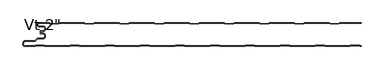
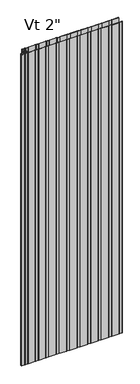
"""IFC4 building model written with IfcOpenShell, lengths in millimetres: plate geometry."""

from ifc_helpers import new_model, si_unit, point, frame, frame_2d, origin, origin_with_axes, place, context, project, spatial, polyline, circle_curve, trimmed, segment, composite_curve, outline, extrude, source, transform, mapped, element, save
from ifc_brep_helpers import plane_surface, cylinder_surface, revolved_surface, advanced_brep


def plate_9e625256(model_context):
    return source(origin(), model_context, "Body", "SolidModel", [
        advanced_brep(
        [(-346.968691, -17.0015202, 2400.0), (-347.9686883, -18.0015234, 2400.0), (-346.968691, -19.0015147, 2400.0), (-342.9684874, -19.0015147, 2400.0), (-342.9684874, -18.0015202, 2400.0), (-340.2762776, -18.0015202, 2400.0), (-336.9762819, -14.7015245, 2400.0), (-336.9762819, -10.3015333, 2400.0), (-340.2762774, -7.0015378, 2400.0), (-350.6962563, -7.0015378, 2400.0), (-352.4662505, -5.2315436, 2400.0), (-352.4662505, -0.9999959, 2400.0), (-327.9659738, -0.9999959, 2400.0), (-326.5803312, -2.200235, 2400.0), (-307.2051649, -2.200235, 2400.0), (-305.819532, -1.0000043, 2400.0), (-251.7661166, -1.0000043, 2400.0), (-250.3804836, -2.200235, 2400.0), (-231.0053173, -2.200235, 2400.0), (-229.6196844, -1.0000043, 2400.0), (-175.566269, -1.0000043, 2400.0), (-174.180636, -2.200235, 2400.0), (-154.8054697, -2.200235, 2400.0), (-153.4198368, -1.0000043, 2400.0), (-99.3664214, -1.0000043, 2400.0), (-97.9807884, -2.200235, 2400.0), (-78.6056221, -2.200235, 2400.0), (-77.2199892, -1.0000043, 2400.0), (-23.1665738, -1.0000043, 2400.0), (-21.7809408, -2.200235, 2400.0), (-2.4057745, -2.200235, 2400.0), (-1.0201416, -1.0000043, 2400.0), (53.0332738, -1.0000043, 2400.0), (54.4189068, -2.200235, 2400.0), (73.7940731, -2.200235, 2400.0), (75.179706, -1.0000043, 2400.0), (129.2331214, -1.0000043, 2400.0), (130.6187544, -2.200235, 2400.0), (149.9939207, -2.200235, 2400.0), (151.3795536, -1.0000043, 2400.0), (205.432969, -1.0000043, 2400.0), (206.818602, -2.200235, 2400.0), (226.1937683, -2.200235, 2400.0), (227.5794012, -1.0000043, 2400.0), (281.6328166, -1.0000043, 2400.0), (283.0184496, -2.200235, 2400.0), (302.3936159, -2.200235, 2400.0), (303.7792488, -1.0000043, 2400.0), (350.4999998, -1.0000043, 2400.0), (350.4999998, -4.3e-06, 2400.0), (303.9284, -4.3e-06, 2400.0), (303.0117831, -0.3417928, 2400.0), (302.0207355, -1.200235, 2400.0), (283.39133, -1.200235, 2400.0), (282.4002824, -0.3417928, 2400.0), (281.4836655, -4.3e-06, 2400.0), (227.7285524, -4.3e-06, 2400.0), (226.8119355, -0.3417928, 2400.0), (225.8208879, -1.200235, 2400.0), (207.1914824, -1.200235, 2400.0), (206.2004348, -0.3417928, 2400.0), (205.2838179, -4.3e-06, 2400.0), (151.5287048, -4.3e-06, 2400.0), (150.6120879, -0.3417928, 2400.0), (149.6210403, -1.200235, 2400.0), (130.9916348, -1.200235, 2400.0), (130.0005872, -0.3417928, 2400.0), (129.0839703, -4.3e-06, 2400.0), (75.3288572, -4.3e-06, 2400.0), (74.4122403, -0.3417928, 2400.0), (73.4211927, -1.200235, 2400.0), (54.7917872, -1.200235, 2400.0), (53.8007396, -0.3417928, 2400.0), (52.8841227, -4.3e-06, 2400.0), (-0.8709904, -4.3e-06, 2400.0), (-1.7876073, -0.3417928, 2400.0), (-2.7786549, -1.200235, 2400.0), (-21.4080604, -1.200235, 2400.0), (-22.399108, -0.3417928, 2400.0), (-23.3157249, -4.3e-06, 2400.0), (-77.070838, -4.3e-06, 2400.0), (-77.9874549, -0.3417928, 2400.0), (-78.9785025, -1.200235, 2400.0), (-97.607908, -1.200235, 2400.0), (-98.5989556, -0.3417928, 2400.0), (-99.5155725, -4.3e-06, 2400.0), (-153.2706856, -4.3e-06, 2400.0), (-154.1873025, -0.3417928, 2400.0), (-155.1783501, -1.200235, 2400.0), (-173.8077556, -1.200235, 2400.0), (-174.7988032, -0.3417928, 2400.0), (-175.7154201, -4.3e-06, 2400.0), (-229.4705332, -4.3e-06, 2400.0), (-230.3871501, -0.3417928, 2400.0), (-231.3781977, -1.200235, 2400.0), (-250.0076032, -1.200235, 2400.0), (-250.9986508, -0.3417928, 2400.0), (-251.9152677, -4.3e-06, 2400.0), (-305.6703808, -4.3e-06, 2400.0), (-306.5869977, -0.3417928, 2400.0), (-307.5780453, -1.200235, 2400.0), (-326.2074508, -1.200235, 2400.0), (-327.1984984, -0.3417928, 2400.0), (-328.1152067, -4.3e-06, 2400.0), (-352.0662543, 4.1e-06, 2400.0), (-353.4662505, -1.3999921, 2400.0), (-353.4662505, -5.2315436, 2400.0), (-350.6962563, -8.0015378, 2400.0), (-340.2762774, -8.0015378, 2400.0), (-337.9762819, -10.3015333, 2400.0), (-337.9762819, -14.7015245, 2400.0), (-340.2762776, -17.0015202, 2400.0), (-346.968691, -17.0015202, 0.0), (-340.2762776, -17.0015202, 0.0), (-337.9762819, -14.7015245, 0.0), (-337.9762819, -10.3015333, 0.0), (-340.2762774, -8.0015378, 0.0), (-350.6962563, -8.0015378, 0.0), (-353.4662505, -5.2315436, 0.0), (-353.4662505, -1.3999921, 0.0), (-352.0662543, 4.1e-06, 0.0), (-328.1151153, 4.1e-06, 0.0), (-327.1984984, -0.3417928, 0.0), (-326.2074508, -1.200235, 0.0), (-307.5780453, -1.200235, 0.0), (-306.5869977, -0.3417928, 0.0), (-305.6703808, -4.3e-06, 0.0), (-251.9152677, -4.3e-06, 0.0), (-250.9986508, -0.3417928, 0.0), (-250.0076032, -1.200235, 0.0), (-231.3781977, -1.200235, 0.0), (-230.3871501, -0.3417928, 0.0), (-229.4705332, -4.3e-06, 0.0), (-175.7154201, -4.3e-06, 0.0), (-174.7988032, -0.3417928, 0.0), (-173.8077556, -1.200235, 0.0), (-155.1783501, -1.200235, 0.0), (-154.1873025, -0.3417928, 0.0), (-153.2706856, -4.3e-06, 0.0), (-99.5155725, -4.3e-06, 0.0), (-98.5989556, -0.3417928, 0.0), (-97.607908, -1.200235, 0.0), (-78.9785025, -1.200235, 0.0), (-77.9874549, -0.3417928, 0.0), (-77.070838, -4.3e-06, 0.0), (-23.3157249, -4.3e-06, 0.0), (-22.399108, -0.3417928, 0.0), (-21.4080604, -1.200235, 0.0), (-2.7786549, -1.200235, 0.0), (-1.7876073, -0.3417928, 0.0), (-0.8709904, -4.3e-06, 0.0), (52.8841227, -4.3e-06, 0.0), (53.8007396, -0.3417928, 0.0), (54.7917872, -1.200235, 0.0), (73.4211927, -1.200235, 0.0), (74.4122403, -0.3417928, 0.0), (75.3288572, -4.3e-06, 0.0), (129.0839703, -4.3e-06, 0.0), (130.0005872, -0.3417928, 0.0), (130.9916348, -1.200235, 0.0), (149.6210403, -1.200235, 0.0), (150.6120879, -0.3417928, 0.0), (151.5287048, -4.3e-06, 0.0), (205.2838179, -4.3e-06, 0.0), (206.2004348, -0.3417928, 0.0), (207.1914824, -1.200235, 0.0), (225.8208879, -1.200235, 0.0), (226.8119355, -0.3417928, 0.0), (227.7285524, -4.3e-06, 0.0), (281.4836655, -4.3e-06, 0.0), (282.4002824, -0.3417928, 0.0), (283.39133, -1.200235, 0.0), (302.0207355, -1.200235, 0.0), (303.0117831, -0.3417928, 0.0), (303.9284, -4.3e-06, 0.0), (350.4999998, -4.3e-06, 0.0), (350.4999998, -1.0000043, 0.0), (303.7792488, -1.0000043, 0.0), (302.3936159, -2.200235, 0.0), (283.0184496, -2.200235, 0.0), (281.6328166, -1.0000043, 0.0), (227.5794012, -1.0000043, 0.0), (226.1937683, -2.200235, 0.0), (206.818602, -2.200235, 0.0), (205.432969, -1.0000043, 0.0), (151.3795536, -1.0000043, 0.0), (149.9939207, -2.200235, 0.0), (130.6187544, -2.200235, 0.0), (129.2331214, -1.0000043, 0.0), (75.179706, -1.0000043, 0.0), (73.7940731, -2.200235, 0.0), (54.4189068, -2.200235, 0.0), (53.0332738, -1.0000043, 0.0), (-1.0201416, -1.0000043, 0.0), (-2.4057745, -2.200235, 0.0), (-21.7809408, -2.200235, 0.0), (-23.1665738, -1.0000043, 0.0), (-77.2199892, -1.0000043, 0.0), (-78.6056221, -2.200235, 0.0), (-97.9807884, -2.200235, 0.0), (-99.3664214, -1.0000043, 0.0), (-153.4198368, -1.0000043, 0.0), (-154.8054697, -2.200235, 0.0), (-174.180636, -2.200235, 0.0), (-175.566269, -1.0000043, 0.0), (-229.6196844, -1.0000043, 0.0), (-231.0053173, -2.200235, 0.0), (-250.3804836, -2.200235, 0.0), (-251.7661166, -1.0000043, 0.0), (-305.819532, -1.0000043, 0.0), (-307.2051649, -2.200235, 0.0), (-326.5803312, -2.200235, 0.0), (-327.9659738, -0.9999959, 0.0), (-352.4662505, -0.9999959, 0.0), (-352.4662505, -5.2315436, 0.0), (-350.6962563, -7.0015378, 0.0), (-340.2762774, -7.0015378, 0.0), (-336.9762819, -10.3015333, 0.0), (-336.9762819, -14.7015245, 0.0), (-340.2762776, -18.0015202, 0.0), (-342.9684874, -18.0015202, 0.0), (-342.9684874, -19.0015147, 0.0), (-346.968691, -19.0015147, 0.0), (-347.9686882, -18.0015235, 0.0)],
        [
            (0, 1, circle_curve(frame((-346.968691, -18.0015175, 2400.0), z_axis=(0.0, 0.0, 1.0), x_axis=(1.0, 0.0, 0.0)), 0.9999973)),
            (1, 2, circle_curve(frame((-346.968691, -18.0015175, 2400.0), z_axis=(0.0, 0.0, 1.0), x_axis=(1.0, 0.0, 0.0)), 0.9999972)),
            (2, 3),
            (3, 4),
            (4, 5),
            (5, 6, circle_curve(frame((-340.2762776, -14.7015245, 2400.0), z_axis=(0.0, 0.0, 1.0), x_axis=(1.0, 0.0, 0.0)), 3.2999957)),
            (6, 7),
            (7, 8, circle_curve(frame((-340.2762774, -10.3015333, 2400.0), z_axis=(0.0, 0.0, 1.0), x_axis=(1.0, 0.0, 0.0)), 3.2999955)),
            (8, 9),
            (9, 10, circle_curve(frame((-350.6962563, -5.2315436, 2400.0), z_axis=(0.0, 0.0, -1.0), x_axis=(1.0, 0.0, 0.0)), 1.7699942)),
            (10, 11),
            (11, 12),
            (12, 13),
            (13, 14),
            (14, 15),
            (15, 16),
            (16, 17),
            (17, 18),
            (18, 19),
            (19, 20),
            (20, 21),
            (21, 22),
            (22, 23),
            (23, 24),
            (24, 25),
            (25, 26),
            (26, 27),
            (27, 28),
            (28, 29),
            (29, 30),
            (30, 31),
            (31, 32),
            (32, 33),
            (33, 34),
            (34, 35),
            (35, 36),
            (36, 37),
            (37, 38),
            (38, 39),
            (39, 40),
            (40, 41),
            (41, 42),
            (42, 43),
            (43, 44),
            (44, 45),
            (45, 46),
            (46, 47),
            (47, 48),
            (48, 49),
            (49, 50),
            (50, 51, circle_curve(frame((303.9284, -1.4000015, 2400.0), z_axis=(0.0, 0.0, 1.0), x_axis=(1.0, 0.0, 0.0)), 1.3999972)),
            (51, 52),
            (52, 53),
            (53, 54),
            (54, 55, circle_curve(frame((281.4836655, -1.4000015, 2400.0), z_axis=(0.0, 0.0, 1.0), x_axis=(1.0, 0.0, 0.0)), 1.3999972)),
            (55, 56),
            (56, 57, circle_curve(frame((227.7285524, -1.4000015, 2400.0), z_axis=(0.0, 0.0, 1.0), x_axis=(1.0, 0.0, 0.0)), 1.3999972)),
            (57, 58),
            (58, 59),
            (59, 60),
            (60, 61, circle_curve(frame((205.2838179, -1.4000015, 2400.0), z_axis=(0.0, 0.0, 1.0), x_axis=(1.0, 0.0, 0.0)), 1.3999972)),
            (61, 62),
            (62, 63, circle_curve(frame((151.5287048, -1.4000015, 2400.0), z_axis=(0.0, 0.0, 1.0), x_axis=(1.0, 0.0, 0.0)), 1.3999972)),
            (63, 64),
            (64, 65),
            (65, 66),
            (66, 67, circle_curve(frame((129.0839703, -1.4000015, 2400.0), z_axis=(0.0, 0.0, 1.0), x_axis=(1.0, 0.0, 0.0)), 1.3999972)),
            (67, 68),
            (68, 69, circle_curve(frame((75.3288572, -1.4000015, 2400.0), z_axis=(0.0, 0.0, 1.0), x_axis=(1.0, 0.0, 0.0)), 1.3999972)),
            (69, 70),
            (70, 71),
            (71, 72),
            (72, 73, circle_curve(frame((52.8841227, -1.4000015, 2400.0), z_axis=(0.0, 0.0, 1.0), x_axis=(1.0, 0.0, 0.0)), 1.3999972)),
            (73, 74),
            (74, 75, circle_curve(frame((-0.8709904, -1.4000015, 2400.0), z_axis=(0.0, 0.0, 1.0), x_axis=(1.0, 0.0, 0.0)), 1.3999972)),
            (75, 76),
            (76, 77),
            (77, 78),
            (78, 79, circle_curve(frame((-23.3157249, -1.4000015, 2400.0), z_axis=(0.0, 0.0, 1.0), x_axis=(1.0, 0.0, 0.0)), 1.3999972)),
            (79, 80),
            (80, 81, circle_curve(frame((-77.070838, -1.4000015, 2400.0), z_axis=(0.0, 0.0, 1.0), x_axis=(1.0, 0.0, 0.0)), 1.3999972)),
            (81, 82),
            (82, 83),
            (83, 84),
            (84, 85, circle_curve(frame((-99.5155725, -1.4000015, 2400.0), z_axis=(0.0, 0.0, 1.0), x_axis=(1.0, 0.0, 0.0)), 1.3999972)),
            (85, 86),
            (86, 87, circle_curve(frame((-153.2706856, -1.4000015, 2400.0), z_axis=(0.0, 0.0, 1.0), x_axis=(1.0, 0.0, 0.0)), 1.3999972)),
            (87, 88),
            (88, 89),
            (89, 90),
            (90, 91, circle_curve(frame((-175.7154201, -1.4000015, 2400.0), z_axis=(0.0, 0.0, 1.0), x_axis=(1.0, 0.0, 0.0)), 1.3999972)),
            (91, 92),
            (92, 93, circle_curve(frame((-229.4705332, -1.4000015, 2400.0), z_axis=(0.0, 0.0, 1.0), x_axis=(1.0, 0.0, 0.0)), 1.3999972)),
            (93, 94),
            (94, 95),
            (95, 96),
            (96, 97, circle_curve(frame((-251.9152677, -1.4000015, 2400.0), z_axis=(0.0, 0.0, 1.0), x_axis=(1.0, 0.0, 0.0)), 1.3999972)),
            (97, 98),
            (98, 99, circle_curve(frame((-305.6703808, -1.4000015, 2400.0), z_axis=(0.0, 0.0, 1.0), x_axis=(1.0, 0.0, 0.0)), 1.3999972)),
            (99, 100),
            (100, 101),
            (101, 102),
            (102, 103, circle_curve(frame((-328.1151153, -1.4000015, 2400.0), z_axis=(0.0, 0.0, 1.0), x_axis=(1.0, 0.0, 0.0)), 1.3999972)),
            (103, 104),
            (104, 105, circle_curve(frame((-352.0662543, -1.3999921, 2400.0), z_axis=(0.0, 0.0, 1.0), x_axis=(1.0, 0.0, 0.0)), 1.3999962)),
            (105, 106),
            (106, 107, circle_curve(frame((-350.6962563, -5.2315436, 2400.0), z_axis=(0.0, 0.0, 1.0), x_axis=(1.0, 0.0, 0.0)), 2.7699942)),
            (107, 108),
            (108, 109, circle_curve(frame((-340.2762774, -10.3015333, 2400.0), z_axis=(0.0, 0.0, -1.0), x_axis=(1.0, 0.0, 0.0)), 2.2999955)),
            (109, 110),
            (110, 111, circle_curve(frame((-340.2762776, -14.7015245, 2400.0), z_axis=(0.0, 0.0, -1.0), x_axis=(1.0, 0.0, 0.0)), 2.2999957)),
            (111, 0),
            (112, 113),
            (113, 114, circle_curve(frame((-340.2762776, -14.7015245, 0.0), z_axis=(0.0, 0.0, 1.0), x_axis=(1.0, 0.0, 0.0)), 2.2999957)),
            (114, 115),
            (115, 116, circle_curve(frame((-340.2762774, -10.3015333, 0.0), z_axis=(0.0, 0.0, 1.0), x_axis=(1.0, 0.0, 0.0)), 2.2999955)),
            (116, 117),
            (117, 118, circle_curve(frame((-350.6962563, -5.2315436, 0.0), z_axis=(0.0, 0.0, -1.0), x_axis=(1.0, 0.0, 0.0)), 2.7699942)),
            (118, 119),
            (119, 120, circle_curve(frame((-352.0662543, -1.3999921, 0.0), z_axis=(0.0, 0.0, -1.0), x_axis=(1.0, 0.0, 0.0)), 1.3999962)),
            (120, 121),
            (121, 122, circle_curve(frame((-328.1151153, -1.4000015, 0.0), z_axis=(0.0, 0.0, -1.0), x_axis=(1.0, 0.0, 0.0)), 1.3999972)),
            (122, 123),
            (123, 124),
            (124, 125),
            (125, 126, circle_curve(frame((-305.6703808, -1.4000015, 0.0), z_axis=(0.0, 0.0, -1.0), x_axis=(1.0, 0.0, 0.0)), 1.3999972)),
            (126, 127),
            (127, 128, circle_curve(frame((-251.9152677, -1.4000015, 0.0), z_axis=(0.0, 0.0, -1.0), x_axis=(1.0, 0.0, 0.0)), 1.3999972)),
            (128, 129),
            (129, 130),
            (130, 131),
            (131, 132, circle_curve(frame((-229.4705332, -1.4000015, 0.0), z_axis=(0.0, 0.0, -1.0), x_axis=(1.0, 0.0, 0.0)), 1.3999972)),
            (132, 133),
            (133, 134, circle_curve(frame((-175.7154201, -1.4000015, 0.0), z_axis=(0.0, 0.0, -1.0), x_axis=(1.0, 0.0, 0.0)), 1.3999972)),
            (134, 135),
            (135, 136),
            (136, 137),
            (137, 138, circle_curve(frame((-153.2706856, -1.4000015, 0.0), z_axis=(0.0, 0.0, -1.0), x_axis=(1.0, 0.0, 0.0)), 1.3999972)),
            (138, 139),
            (139, 140, circle_curve(frame((-99.5155725, -1.4000015, 0.0), z_axis=(0.0, 0.0, -1.0), x_axis=(1.0, 0.0, 0.0)), 1.3999972)),
            (140, 141),
            (141, 142),
            (142, 143),
            (143, 144, circle_curve(frame((-77.070838, -1.4000015, 0.0), z_axis=(0.0, 0.0, -1.0), x_axis=(1.0, 0.0, 0.0)), 1.3999972)),
            (144, 145),
            (145, 146, circle_curve(frame((-23.3157249, -1.4000015, 0.0), z_axis=(0.0, 0.0, -1.0), x_axis=(1.0, 0.0, 0.0)), 1.3999972)),
            (146, 147),
            (147, 148),
            (148, 149),
            (149, 150, circle_curve(frame((-0.8709904, -1.4000015, 0.0), z_axis=(0.0, 0.0, -1.0), x_axis=(1.0, 0.0, 0.0)), 1.3999972)),
            (150, 151),
            (151, 152, circle_curve(frame((52.8841227, -1.4000015, 0.0), z_axis=(0.0, 0.0, -1.0), x_axis=(1.0, 0.0, 0.0)), 1.3999972)),
            (152, 153),
            (153, 154),
            (154, 155),
            (155, 156, circle_curve(frame((75.3288572, -1.4000015, 0.0), z_axis=(0.0, 0.0, -1.0), x_axis=(1.0, 0.0, 0.0)), 1.3999972)),
            (156, 157),
            (157, 158, circle_curve(frame((129.0839703, -1.4000015, 0.0), z_axis=(0.0, 0.0, -1.0), x_axis=(1.0, 0.0, 0.0)), 1.3999972)),
            (158, 159),
            (159, 160),
            (160, 161),
            (161, 162, circle_curve(frame((151.5287048, -1.4000015, 0.0), z_axis=(0.0, 0.0, -1.0), x_axis=(1.0, 0.0, 0.0)), 1.3999972)),
            (162, 163),
            (163, 164, circle_curve(frame((205.2838179, -1.4000015, 0.0), z_axis=(0.0, 0.0, -1.0), x_axis=(1.0, 0.0, 0.0)), 1.3999972)),
            (164, 165),
            (165, 166),
            (166, 167),
            (167, 168, circle_curve(frame((227.7285524, -1.4000015, 0.0), z_axis=(0.0, 0.0, -1.0), x_axis=(1.0, 0.0, 0.0)), 1.3999972)),
            (168, 169),
            (169, 170, circle_curve(frame((281.4836655, -1.4000015, 0.0), z_axis=(0.0, 0.0, -1.0), x_axis=(1.0, 0.0, 0.0)), 1.3999972)),
            (170, 171),
            (171, 172),
            (172, 173),
            (173, 174, circle_curve(frame((303.9284, -1.4000015, 0.0), z_axis=(0.0, 0.0, -1.0), x_axis=(1.0, 0.0, 0.0)), 1.3999972)),
            (174, 175),
            (175, 176),
            (176, 177),
            (177, 178),
            (178, 179),
            (179, 180),
            (180, 181),
            (181, 182),
            (182, 183),
            (183, 184),
            (184, 185),
            (185, 186),
            (186, 187),
            (187, 188),
            (188, 189),
            (189, 190),
            (190, 191),
            (191, 192),
            (192, 193),
            (193, 194),
            (194, 195),
            (195, 196),
            (196, 197),
            (197, 198),
            (198, 199),
            (199, 200),
            (200, 201),
            (201, 202),
            (202, 203),
            (203, 204),
            (204, 205),
            (205, 206),
            (206, 207),
            (207, 208),
            (208, 209),
            (209, 210),
            (210, 211),
            (211, 212),
            (212, 213),
            (213, 214),
            (214, 215, circle_curve(frame((-350.6962563, -5.2315436, 0.0), z_axis=(0.0, 0.0, 1.0), x_axis=(1.0, 0.0, 0.0)), 1.7699942)),
            (215, 216),
            (216, 217, circle_curve(frame((-340.2762774, -10.3015333, 0.0), z_axis=(0.0, 0.0, -1.0), x_axis=(1.0, 0.0, 0.0)), 3.2999955)),
            (217, 218),
            (218, 219, circle_curve(frame((-340.2762776, -14.7015245, 0.0), z_axis=(0.0, 0.0, -1.0), x_axis=(1.0, 0.0, 0.0)), 3.2999957)),
            (219, 220),
            (220, 221),
            (221, 222),
            (222, 223, circle_curve(frame((-346.968691, -18.0015175, 0.0), z_axis=(0.0, 0.0, -1.0), x_axis=(1.0, 0.0, 0.0)), 0.9999972)),
            (223, 112, circle_curve(frame((-346.968691, -18.0015175, 0.0), z_axis=(0.0, 0.0, -1.0), x_axis=(1.0, 0.0, 0.0)), 0.9999973)),
            (111, 113),
            (112, 0),
            (110, 114),
            (109, 115),
            (108, 116),
            (107, 117),
            (106, 118),
            (105, 119),
            (104, 120),
            (103, 121),
            (102, 122),
            (101, 123),
            (100, 124),
            (99, 125),
            (98, 126),
            (97, 127),
            (96, 128),
            (95, 129),
            (94, 130),
            (93, 131),
            (92, 132),
            (91, 133),
            (90, 134),
            (89, 135),
            (88, 136),
            (87, 137),
            (86, 138),
            (85, 139),
            (84, 140),
            (83, 141),
            (82, 142),
            (81, 143),
            (80, 144),
            (79, 145),
            (78, 146),
            (77, 147),
            (76, 148),
            (75, 149),
            (74, 150),
            (73, 151),
            (72, 152),
            (71, 153),
            (70, 154),
            (69, 155),
            (68, 156),
            (67, 157),
            (66, 158),
            (65, 159),
            (64, 160),
            (63, 161),
            (62, 162),
            (61, 163),
            (39, 185),
            (184, 40),
            (38, 186),
            (37, 187),
            (36, 188),
            (35, 189),
            (34, 190),
            (33, 191),
            (32, 192),
            (31, 193),
            (30, 194),
            (29, 195),
            (28, 196),
            (27, 197),
            (26, 198),
            (25, 199),
            (24, 200),
            (23, 201),
            (22, 202),
            (21, 203),
            (20, 204),
            (19, 205),
            (18, 206),
            (17, 207),
            (16, 208),
            (15, 209),
            (14, 210),
            (13, 211),
            (12, 212),
            (11, 213),
            (10, 214),
            (9, 215),
            (8, 216),
            (7, 217),
            (6, 218),
            (5, 219),
            (4, 220),
            (3, 221),
            (2, 222),
            (1, 223),
            (48, 176),
            (175, 49),
            (60, 164),
            (59, 165),
            (58, 166),
            (57, 167),
            (56, 168),
            (55, 169),
            (54, 170),
            (53, 171),
            (52, 172),
            (51, 173),
            (50, 174),
            (47, 177),
            (46, 178),
            (45, 179),
            (44, 180),
            (43, 181),
            (42, 182),
            (41, 183),
        ],
        [
            plane_surface(frame((32.0000002, -4.3e-06, 2400.0), z_axis=(0.0, 0.0, 1.0), x_axis=(0.0, 1.0, 0.0))),
            plane_surface(frame((32.0000002, -4.3e-06, 0.0), z_axis=(0.0, 0.0, -1.0), x_axis=(0.0, 1.0, 0.0))),
            plane_surface(frame((-346.968691, -17.0015202, 2400.0), z_axis=(0.0, 1.0, 0.0), x_axis=(0.0, 0.0, -1.0))),
            revolved_surface(polyline([(-337.9762819, -14.7015245, 0.0), (-337.9762819, -14.7015245, 2400.0)]), (-340.2762776, -14.7015245, 2400.0), (0.0, 0.0, -1.0)),
            plane_surface(frame((-337.9762819, -14.7015245, 2400.0), z_axis=(-1.0, 0.0, 0.0), x_axis=(0.0, 0.0, -1.0))),
            revolved_surface(polyline([(-337.9762819, -10.3015333, 0.0), (-337.9762819, -10.3015333, 2400.0)]), (-340.2762774, -10.3015333, 2400.0), (0.0, 0.0, -1.0)),
            plane_surface(frame((-340.2762774, -8.0015378, 2400.0), z_axis=(0.0, -1.0, 0.0), x_axis=(0.0, 0.0, -1.0))),
            cylinder_surface(frame((-350.6962563, -5.2315436, 2400.0), z_axis=(0.0, 0.0, 1.0), x_axis=(1.0, 0.0, 0.0)), 2.7699942),
            plane_surface(frame((-353.4662505, -5.2315436, 2400.0), z_axis=(-1.0, 0.0, 0.0), x_axis=(0.0, 0.0, -1.0))),
            cylinder_surface(frame((-352.0662543, -1.3999921, 2400.0), z_axis=(0.0, 0.0, 1.0), x_axis=(1.0, 0.0, 0.0)), 1.3999962),
            plane_surface(frame((-352.0662543, 4.1e-06, 2400.0), z_axis=(0.0, 1.0, 0.0), x_axis=(0.0, 0.0, -1.0))),
            cylinder_surface(frame((-328.1151153, -1.4000015, 2400.0), z_axis=(0.0, 0.0, 1.0), x_axis=(1.0, 0.0, 0.0)), 1.3999972),
            plane_surface(frame((-327.1984984, -0.3417928, 2400.0), z_axis=(0.6547276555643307, 0.7558648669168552, 0.0), x_axis=(0.0, 0.0, -1.0))),
            plane_surface(frame((-316.8927481, -1.200235, 2400.0), z_axis=(0.0, 1.0, 0.0), x_axis=(0.0, 0.0, -1.0))),
            plane_surface(frame((-307.5780453, -1.200235, 2400.0), z_axis=(-0.6547276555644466, 0.7558648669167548, 0.0), x_axis=(0.0, 0.0, -1.0))),
            cylinder_surface(frame((-305.6703808, -1.4000015, 2400.0), z_axis=(0.0, 0.0, 1.0), x_axis=(1.0, 0.0, 0.0)), 1.3999972),
            plane_surface(frame((-305.6703808, -4.3e-06, 2400.0), z_axis=(0.0, 1.0, 0.0), x_axis=(0.0, 0.0, -1.0))),
            cylinder_surface(frame((-251.9152677, -1.4000015, 2400.0), z_axis=(0.0, 0.0, 1.0), x_axis=(1.0, 0.0, 0.0)), 1.3999972),
            plane_surface(frame((-250.9986508, -0.3417928, 2400.0), z_axis=(0.6547276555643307, 0.7558648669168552, 0.0), x_axis=(0.0, 0.0, -1.0))),
            plane_surface(frame((-240.6929005, -1.200235, 2400.0), z_axis=(0.0, 1.0, 0.0), x_axis=(0.0, 0.0, -1.0))),
            plane_surface(frame((-231.3781977, -1.200235, 2400.0), z_axis=(-0.6547276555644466, 0.7558648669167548, 0.0), x_axis=(0.0, 0.0, -1.0))),
            cylinder_surface(frame((-229.4705332, -1.4000015, 2400.0), z_axis=(0.0, 0.0, 1.0), x_axis=(1.0, 0.0, 0.0)), 1.3999972),
            plane_surface(frame((-229.4705332, -4.3e-06, 2400.0), z_axis=(0.0, 1.0, 0.0), x_axis=(0.0, 0.0, -1.0))),
            cylinder_surface(frame((-175.7154201, -1.4000015, 2400.0), z_axis=(0.0, 0.0, 1.0), x_axis=(1.0, 0.0, 0.0)), 1.3999972),
            plane_surface(frame((-174.7988032, -0.3417928, 2400.0), z_axis=(0.6547276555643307, 0.7558648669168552, 0.0), x_axis=(0.0, 0.0, -1.0))),
            plane_surface(frame((-164.4930529, -1.200235, 2400.0), z_axis=(0.0, 1.0, 0.0), x_axis=(0.0, 0.0, -1.0))),
            plane_surface(frame((-155.1783501, -1.200235, 2400.0), z_axis=(-0.6547276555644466, 0.7558648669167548, 0.0), x_axis=(0.0, 0.0, -1.0))),
            cylinder_surface(frame((-153.2706856, -1.4000015, 2400.0), z_axis=(0.0, 0.0, 1.0), x_axis=(1.0, 0.0, 0.0)), 1.3999972),
            plane_surface(frame((-153.2706856, -4.3e-06, 2400.0), z_axis=(0.0, 1.0, 0.0), x_axis=(0.0, 0.0, -1.0))),
            cylinder_surface(frame((-99.5155725, -1.4000015, 2400.0), z_axis=(0.0, 0.0, 1.0), x_axis=(1.0, 0.0, 0.0)), 1.3999972),
            plane_surface(frame((-98.5989556, -0.3417928, 2400.0), z_axis=(0.6547276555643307, 0.7558648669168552, 0.0), x_axis=(0.0, 0.0, -1.0))),
            plane_surface(frame((-88.2932053, -1.200235, 2400.0), z_axis=(0.0, 1.0, 0.0), x_axis=(0.0, 0.0, -1.0))),
            plane_surface(frame((-78.9785025, -1.200235, 2400.0), z_axis=(-0.6547276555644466, 0.7558648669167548, 0.0), x_axis=(0.0, 0.0, -1.0))),
            cylinder_surface(frame((-77.070838, -1.4000015, 2400.0), z_axis=(0.0, 0.0, 1.0), x_axis=(1.0, 0.0, 0.0)), 1.3999972),
            plane_surface(frame((-77.070838, -4.3e-06, 2400.0), z_axis=(0.0, 1.0, 0.0), x_axis=(0.0, 0.0, -1.0))),
            cylinder_surface(frame((-23.3157249, -1.4000015, 2400.0), z_axis=(0.0, 0.0, 1.0), x_axis=(1.0, 0.0, 0.0)), 1.3999972),
            plane_surface(frame((-22.399108, -0.3417928, 2400.0), z_axis=(0.6547276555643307, 0.7558648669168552, 0.0), x_axis=(0.0, 0.0, -1.0))),
            plane_surface(frame((-12.0933577, -1.200235, 2400.0), z_axis=(0.0, 1.0, 0.0), x_axis=(0.0, 0.0, -1.0))),
            plane_surface(frame((-2.7786549, -1.200235, 2400.0), z_axis=(-0.6547276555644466, 0.7558648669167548, 0.0), x_axis=(0.0, 0.0, -1.0))),
            cylinder_surface(frame((-0.8709904, -1.4000015, 2400.0), z_axis=(0.0, 0.0, 1.0), x_axis=(1.0, 0.0, 0.0)), 1.3999972),
            plane_surface(frame((-0.8709904, -4.3e-06, 2400.0), z_axis=(0.0, 1.0, 0.0), x_axis=(0.0, 0.0, -1.0))),
            cylinder_surface(frame((52.8841227, -1.4000015, 2400.0), z_axis=(0.0, 0.0, 1.0), x_axis=(1.0, 0.0, 0.0)), 1.3999972),
            plane_surface(frame((53.8007396, -0.3417928, 2400.0), z_axis=(0.6547276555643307, 0.7558648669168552, 0.0), x_axis=(0.0, 0.0, -1.0))),
            plane_surface(frame((64.1064899, -1.200235, 2400.0), z_axis=(0.0, 1.0, 0.0), x_axis=(0.0, 0.0, -1.0))),
            plane_surface(frame((73.4211927, -1.200235, 2400.0), z_axis=(-0.6547276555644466, 0.7558648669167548, 0.0), x_axis=(0.0, 0.0, -1.0))),
            cylinder_surface(frame((75.3288572, -1.4000015, 2400.0), z_axis=(0.0, 0.0, 1.0), x_axis=(1.0, 0.0, 0.0)), 1.3999972),
            plane_surface(frame((75.3288572, -4.3e-06, 2400.0), z_axis=(0.0, 1.0, 0.0), x_axis=(0.0, 0.0, -1.0))),
            cylinder_surface(frame((129.0839703, -1.4000015, 2400.0), z_axis=(0.0, 0.0, 1.0), x_axis=(1.0, 0.0, 0.0)), 1.3999972),
            plane_surface(frame((130.0005872, -0.3417928, 2400.0), z_axis=(0.6547276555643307, 0.7558648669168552, 0.0), x_axis=(0.0, 0.0, -1.0))),
            plane_surface(frame((140.3063375, -1.200235, 2400.0), z_axis=(0.0, 1.0, 0.0), x_axis=(0.0, 0.0, -1.0))),
            plane_surface(frame((149.6210403, -1.200235, 2400.0), z_axis=(-0.6547276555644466, 0.7558648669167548, 0.0), x_axis=(0.0, 0.0, -1.0))),
            cylinder_surface(frame((151.5287048, -1.4000015, 2400.0), z_axis=(0.0, 0.0, 1.0), x_axis=(1.0, 0.0, 0.0)), 1.3999972),
            plane_surface(frame((151.5287048, -4.3e-06, 2400.0), z_axis=(0.0, 1.0, 0.0), x_axis=(0.0, 0.0, -1.0))),
            plane_surface(frame((205.432969, -1.0000043, 2400.0), z_axis=(0.0, -1.0, 0.0), x_axis=(0.0, 0.0, -1.0))),
            plane_surface(frame((151.3795536, -1.0000043, 2400.0), z_axis=(0.6547276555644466, -0.7558648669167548, 0.0), x_axis=(0.0, 0.0, -1.0))),
            plane_surface(frame((149.9939207, -2.200235, 2400.0), z_axis=(0.0, -1.0, 0.0), x_axis=(0.0, 0.0, -1.0))),
            plane_surface(frame((130.6187544, -2.200235, 2400.0), z_axis=(-0.6547276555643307, -0.7558648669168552, 0.0), x_axis=(0.0, 0.0, -1.0))),
            plane_surface(frame((129.2331214, -1.0000043, 2400.0), z_axis=(0.0, -1.0, 0.0), x_axis=(0.0, 0.0, -1.0))),
            plane_surface(frame((75.179706, -1.0000043, 2400.0), z_axis=(0.6547276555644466, -0.7558648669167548, 0.0), x_axis=(0.0, 0.0, -1.0))),
            plane_surface(frame((73.7940731, -2.200235, 2400.0), z_axis=(0.0, -1.0, 0.0), x_axis=(0.0, 0.0, -1.0))),
            plane_surface(frame((54.4189068, -2.200235, 2400.0), z_axis=(-0.6547276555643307, -0.7558648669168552, 0.0), x_axis=(0.0, 0.0, -1.0))),
            plane_surface(frame((53.0332738, -1.0000043, 2400.0), z_axis=(0.0, -1.0, 0.0), x_axis=(0.0, 0.0, -1.0))),
            plane_surface(frame((-1.0201416, -1.0000043, 2400.0), z_axis=(0.6547276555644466, -0.7558648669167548, 0.0), x_axis=(0.0, 0.0, -1.0))),
            plane_surface(frame((-2.4057745, -2.200235, 2400.0), z_axis=(0.0, -1.0, 0.0), x_axis=(0.0, 0.0, -1.0))),
            plane_surface(frame((-21.7809408, -2.200235, 2400.0), z_axis=(-0.6547276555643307, -0.7558648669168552, 0.0), x_axis=(0.0, 0.0, -1.0))),
            plane_surface(frame((-23.1665738, -1.0000043, 2400.0), z_axis=(0.0, -1.0, 0.0), x_axis=(0.0, 0.0, -1.0))),
            plane_surface(frame((-77.2199892, -1.0000043, 2400.0), z_axis=(0.6547276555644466, -0.7558648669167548, 0.0), x_axis=(0.0, 0.0, -1.0))),
            plane_surface(frame((-78.6056221, -2.200235, 2400.0), z_axis=(0.0, -1.0, 0.0), x_axis=(0.0, 0.0, -1.0))),
            plane_surface(frame((-97.9807884, -2.200235, 2400.0), z_axis=(-0.6547276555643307, -0.7558648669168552, 0.0), x_axis=(0.0, 0.0, -1.0))),
            plane_surface(frame((-99.3664214, -1.0000043, 2400.0), z_axis=(0.0, -1.0, 0.0), x_axis=(0.0, 0.0, -1.0))),
            plane_surface(frame((-153.4198368, -1.0000043, 2400.0), z_axis=(0.6547276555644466, -0.7558648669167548, 0.0), x_axis=(0.0, 0.0, -1.0))),
            plane_surface(frame((-154.8054697, -2.200235, 2400.0), z_axis=(0.0, -1.0, 0.0), x_axis=(0.0, 0.0, -1.0))),
            plane_surface(frame((-174.180636, -2.200235, 2400.0), z_axis=(-0.6547276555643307, -0.7558648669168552, 0.0), x_axis=(0.0, 0.0, -1.0))),
            plane_surface(frame((-175.566269, -1.0000043, 2400.0), z_axis=(0.0, -1.0, 0.0), x_axis=(0.0, 0.0, -1.0))),
            plane_surface(frame((-229.6196844, -1.0000043, 2400.0), z_axis=(0.6547276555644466, -0.7558648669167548, 0.0), x_axis=(0.0, 0.0, -1.0))),
            plane_surface(frame((-231.0053173, -2.200235, 2400.0), z_axis=(0.0, -1.0, 0.0), x_axis=(0.0, 0.0, -1.0))),
            plane_surface(frame((-250.3804836, -2.200235, 2400.0), z_axis=(-0.6547276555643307, -0.7558648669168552, 0.0), x_axis=(0.0, 0.0, -1.0))),
            plane_surface(frame((-251.7661166, -1.0000043, 2400.0), z_axis=(0.0, -1.0, 0.0), x_axis=(0.0, 0.0, -1.0))),
            plane_surface(frame((-305.819532, -1.0000043, 2400.0), z_axis=(0.6547276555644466, -0.7558648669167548, 0.0), x_axis=(0.0, 0.0, -1.0))),
            plane_surface(frame((-307.2051649, -2.200235, 2400.0), z_axis=(0.0, -1.0, 0.0), x_axis=(0.0, 0.0, -1.0))),
            plane_surface(frame((-326.5803312, -2.200235, 2400.0), z_axis=(-0.6547276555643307, -0.7558648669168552, 0.0), x_axis=(0.0, 0.0, -1.0))),
            plane_surface(frame((-327.9659738, -0.9999959, 2400.0), z_axis=(0.0, -1.0, 0.0), x_axis=(0.0, 0.0, -1.0))),
            plane_surface(frame((-352.4662505, -0.9999959, 2400.0), z_axis=(1.0, 0.0, 0.0), x_axis=(0.0, 0.0, -1.0))),
            revolved_surface(polyline([(-348.92626210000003, -5.2315436, 0.0), (-348.92626210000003, -5.2315436, 2400.0)]), (-350.6962563, -5.2315436, 2400.0), (0.0, 0.0, -1.0)),
            plane_surface(frame((-350.6962563, -7.0015378, 2400.0), z_axis=(0.0, 1.0, 0.0), x_axis=(0.0, 0.0, -1.0))),
            cylinder_surface(frame((-340.2762774, -10.3015333, 2400.0), z_axis=(0.0, 0.0, 1.0), x_axis=(1.0, 0.0, 0.0)), 3.2999955),
            plane_surface(frame((-336.9762819, -10.3015333, 2400.0), z_axis=(1.0, 0.0, 0.0), x_axis=(0.0, 0.0, -1.0))),
            cylinder_surface(frame((-340.2762776, -14.7015245, 2400.0), z_axis=(0.0, 0.0, 1.0), x_axis=(1.0, 0.0, 0.0)), 3.2999957),
            plane_surface(frame((-340.2762776, -18.0015202, 2400.0), z_axis=(0.0, -1.0, 0.0), x_axis=(0.0, 0.0, -1.0))),
            plane_surface(frame((-342.9684874, -18.0015202, 2400.0), z_axis=(1.0, 0.0, 0.0), x_axis=(0.0, 0.0, -1.0))),
            plane_surface(frame((-342.9684874, -19.0015147, 2400.0), z_axis=(0.0, -1.0, 0.0), x_axis=(0.0, 0.0, -1.0))),
            cylinder_surface(frame((-346.968691, -18.0015175, 2400.0), z_axis=(0.0, 0.0, 1.0), x_axis=(1.0, 0.0, 0.0)), 0.9999972),
            cylinder_surface(frame((-346.968691, -18.0015175, 2400.0), z_axis=(0.0, 0.0, 1.0), x_axis=(1.0, 0.0, 0.0)), 0.9999973),
            plane_surface(frame((350.4999998, -60.8000043, 2400.0), z_axis=(1.0, 0.0, 0.0), x_axis=(0.0, 0.0, -1.0))),
            cylinder_surface(frame((205.2838179, -1.4000015, 2400.0), z_axis=(0.0, 0.0, 1.0), x_axis=(1.0, 0.0, 0.0)), 1.3999972),
            plane_surface(frame((206.2004348, -0.3417928, 2400.0), z_axis=(0.6547276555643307, 0.7558648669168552, 0.0), x_axis=(0.0, 0.0, -1.0))),
            plane_surface(frame((216.5061851, -1.200235, 2400.0), z_axis=(0.0, 1.0, 0.0), x_axis=(0.0, 0.0, -1.0))),
            plane_surface(frame((225.8208879, -1.200235, 2400.0), z_axis=(-0.6547276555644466, 0.7558648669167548, 0.0), x_axis=(0.0, 0.0, -1.0))),
            cylinder_surface(frame((227.7285524, -1.4000015, 2400.0), z_axis=(0.0, 0.0, 1.0), x_axis=(1.0, 0.0, 0.0)), 1.3999972),
            plane_surface(frame((227.7285524, -4.3e-06, 2400.0), z_axis=(0.0, 1.0, 0.0), x_axis=(0.0, 0.0, -1.0))),
            cylinder_surface(frame((281.4836655, -1.4000015, 2400.0), z_axis=(0.0, 0.0, 1.0), x_axis=(1.0, 0.0, 0.0)), 1.3999972),
            plane_surface(frame((282.4002824, -0.3417928, 2400.0), z_axis=(0.6547276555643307, 0.7558648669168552, 0.0), x_axis=(0.0, 0.0, -1.0))),
            plane_surface(frame((292.7060327, -1.200235, 2400.0), z_axis=(0.0, 1.0, 0.0), x_axis=(0.0, 0.0, -1.0))),
            plane_surface(frame((302.0207355, -1.200235, 2400.0), z_axis=(-0.6547276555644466, 0.7558648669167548, 0.0), x_axis=(0.0, 0.0, -1.0))),
            cylinder_surface(frame((303.9284, -1.4000015, 2400.0), z_axis=(0.0, 0.0, 1.0), x_axis=(1.0, 0.0, 0.0)), 1.3999972),
            plane_surface(frame((303.9284, -4.3e-06, 2400.0), z_axis=(0.0, 1.0, 0.0), x_axis=(0.0, 0.0, -1.0))),
            plane_surface(frame((357.8326642, -1.0000043, 2400.0), z_axis=(0.0, -1.0, 0.0), x_axis=(0.0, 0.0, -1.0))),
            plane_surface(frame((303.7792488, -1.0000043, 2400.0), z_axis=(0.6547276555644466, -0.7558648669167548, 0.0), x_axis=(0.0, 0.0, -1.0))),
            plane_surface(frame((302.3936159, -2.200235, 2400.0), z_axis=(0.0, -1.0, 0.0), x_axis=(0.0, 0.0, -1.0))),
            plane_surface(frame((283.0184496, -2.200235, 2400.0), z_axis=(-0.6547276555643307, -0.7558648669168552, 0.0), x_axis=(0.0, 0.0, -1.0))),
            plane_surface(frame((281.6328166, -1.0000043, 2400.0), z_axis=(0.0, -1.0, 0.0), x_axis=(0.0, 0.0, -1.0))),
            plane_surface(frame((227.5794012, -1.0000043, 2400.0), z_axis=(0.6547276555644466, -0.7558648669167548, 0.0), x_axis=(0.0, 0.0, -1.0))),
            plane_surface(frame((226.1937683, -2.200235, 2400.0), z_axis=(0.0, -1.0, 0.0), x_axis=(0.0, 0.0, -1.0))),
            plane_surface(frame((206.818602, -2.200235, 2400.0), z_axis=(-0.6547276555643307, -0.7558648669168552, 0.0), x_axis=(0.0, 0.0, -1.0))),
        ],
        [
            (0, [[1, 2, 3, 4, 5, 6, 7, 8, 9, 10, 11, 12, 13, 14, 15, 16, 17, 18, 19, 20, 21, 22, 23, 24, 25, 26, 27, 28, 29, 30, 31, 32, 33, 34, 35, 36, 37, 38, 39, 40, 41, 42, 43, 44, 45, 46, 47, 48, 49, 50, 51, 52, 53, 54, 55, 56, 57, 58, 59, 60, 61, 62, 63, 64, 65, 66, 67, 68, 69, 70, 71, 72, 73, 74, 75, 76, 77, 78, 79, 80, 81, 82, 83, 84, 85, 86, 87, 88, 89, 90, 91, 92, 93, 94, 95, 96, 97, 98, 99, 100, 101, 102, 103, 104, 105, 106, 107, 108, 109, 110, 111, 112]]),
            (1, [[113, 114, 115, 116, 117, 118, 119, 120, 121, 122, 123, 124, 125, 126, 127, 128, 129, 130, 131, 132, 133, 134, 135, 136, 137, 138, 139, 140, 141, 142, 143, 144, 145, 146, 147, 148, 149, 150, 151, 152, 153, 154, 155, 156, 157, 158, 159, 160, 161, 162, 163, 164, 165, 166, 167, 168, 169, 170, 171, 172, 173, 174, 175, 176, 177, 178, 179, 180, 181, 182, 183, 184, 185, 186, 187, 188, 189, 190, 191, 192, 193, 194, 195, 196, 197, 198, 199, 200, 201, 202, 203, 204, 205, 206, 207, 208, 209, 210, 211, 212, 213, 214, 215, 216, 217, 218, 219, 220, 221, 222, 223, 224]]),
            (2, [[225, -113, 226, -112]]),
            (3, [[227, -114, -225, -111]]),
            (4, [[228, -115, -227, -110]]),
            (5, [[229, -116, -228, -109]]),
            (6, [[230, -117, -229, -108]]),
            (7, [[231, -118, -230, -107]]),
            (8, [[232, -119, -231, -106]]),
            (9, [[233, -120, -232, -105]]),
            (10, [[234, -121, -233, -104]]),
            (11, [[235, -122, -234, -103]]),
            (12, [[236, -123, -235, -102]]),
            (13, [[237, -124, -236, -101]]),
            (14, [[238, -125, -237, -100]]),
            (15, [[239, -126, -238, -99]]),
            (16, [[240, -127, -239, -98]]),
            (17, [[241, -128, -240, -97]]),
            (18, [[242, -129, -241, -96]]),
            (19, [[243, -130, -242, -95]]),
            (20, [[244, -131, -243, -94]]),
            (21, [[245, -132, -244, -93]]),
            (22, [[246, -133, -245, -92]]),
            (23, [[247, -134, -246, -91]]),
            (24, [[248, -135, -247, -90]]),
            (25, [[249, -136, -248, -89]]),
            (26, [[250, -137, -249, -88]]),
            (27, [[251, -138, -250, -87]]),
            (28, [[252, -139, -251, -86]]),
            (29, [[253, -140, -252, -85]]),
            (30, [[254, -141, -253, -84]]),
            (31, [[255, -142, -254, -83]]),
            (32, [[256, -143, -255, -82]]),
            (33, [[257, -144, -256, -81]]),
            (34, [[258, -145, -257, -80]]),
            (35, [[259, -146, -258, -79]]),
            (36, [[260, -147, -259, -78]]),
            (37, [[261, -148, -260, -77]]),
            (38, [[262, -149, -261, -76]]),
            (39, [[263, -150, -262, -75]]),
            (40, [[264, -151, -263, -74]]),
            (41, [[265, -152, -264, -73]]),
            (42, [[266, -153, -265, -72]]),
            (43, [[267, -154, -266, -71]]),
            (44, [[268, -155, -267, -70]]),
            (45, [[269, -156, -268, -69]]),
            (46, [[270, -157, -269, -68]]),
            (47, [[271, -158, -270, -67]]),
            (48, [[272, -159, -271, -66]]),
            (49, [[273, -160, -272, -65]]),
            (50, [[274, -161, -273, -64]]),
            (51, [[275, -162, -274, -63]]),
            (52, [[276, -163, -275, -62]]),
            (53, [[277, -185, 278, -40]]),
            (54, [[279, -186, -277, -39]]),
            (55, [[280, -187, -279, -38]]),
            (56, [[281, -188, -280, -37]]),
            (57, [[282, -189, -281, -36]]),
            (58, [[283, -190, -282, -35]]),
            (59, [[284, -191, -283, -34]]),
            (60, [[285, -192, -284, -33]]),
            (61, [[286, -193, -285, -32]]),
            (62, [[287, -194, -286, -31]]),
            (63, [[288, -195, -287, -30]]),
            (64, [[289, -196, -288, -29]]),
            (65, [[290, -197, -289, -28]]),
            (66, [[291, -198, -290, -27]]),
            (67, [[292, -199, -291, -26]]),
            (68, [[293, -200, -292, -25]]),
            (69, [[294, -201, -293, -24]]),
            (70, [[295, -202, -294, -23]]),
            (71, [[296, -203, -295, -22]]),
            (72, [[297, -204, -296, -21]]),
            (73, [[298, -205, -297, -20]]),
            (74, [[299, -206, -298, -19]]),
            (75, [[300, -207, -299, -18]]),
            (76, [[301, -208, -300, -17]]),
            (77, [[302, -209, -301, -16]]),
            (78, [[303, -210, -302, -15]]),
            (79, [[304, -211, -303, -14]]),
            (80, [[305, -212, -304, -13]]),
            (81, [[306, -213, -305, -12]]),
            (82, [[307, -214, -306, -11]]),
            (83, [[308, -215, -307, -10]]),
            (84, [[309, -216, -308, -9]]),
            (85, [[310, -217, -309, -8]]),
            (86, [[311, -218, -310, -7]]),
            (87, [[312, -219, -311, -6]]),
            (88, [[313, -220, -312, -5]]),
            (89, [[314, -221, -313, -4]]),
            (90, [[315, -222, -314, -3]]),
            (91, [[316, -223, -315, -2]]),
            (92, [[-226, -224, -316, -1]]),
            (93, [[317, -176, 318, -49]]),
            (94, [[319, -164, -276, -61]]),
            (95, [[320, -165, -319, -60]]),
            (96, [[321, -166, -320, -59]]),
            (97, [[322, -167, -321, -58]]),
            (98, [[323, -168, -322, -57]]),
            (99, [[324, -169, -323, -56]]),
            (100, [[325, -170, -324, -55]]),
            (101, [[326, -171, -325, -54]]),
            (102, [[327, -172, -326, -53]]),
            (103, [[328, -173, -327, -52]]),
            (104, [[329, -174, -328, -51]]),
            (105, [[-50, -318, -175, -329]]),
            (106, [[-177, -317, -48, 330]]),
            (107, [[331, -178, -330, -47]]),
            (108, [[332, -179, -331, -46]]),
            (109, [[333, -180, -332, -45]]),
            (110, [[334, -181, -333, -44]]),
            (111, [[335, -182, -334, -43]]),
            (112, [[336, -183, -335, -42]]),
            (113, [[-278, -184, -336, -41]]),
        ],
    ),
        extrude(outline(composite_curve([segment(polyline([(-359.6415932, -50.7997421), (-381.4521175, -50.7997421)]), True, "CONTINUOUS"), segment(trimmed(circle_curve(frame_2d((-381.4521175, -47.2295028)), 3.5702393), [point((-381.4521175, -50.7997421))], [point((-385.0087619, -46.9182324))], False, "CARTESIAN"), True, "CONTINUOUS"), segment(polyline([(-385.0087619, -46.9182324), (-384.5690674, -41.8941858)]), True, "CONTINUOUS"), segment(trimmed(circle_curve(frame_2d((-380.9198391, -42.5049869)), 3.6999926), [point((-384.5690674, -41.8941858))], [point((-380.9198391, -38.8049943))], False, "CARTESIAN"), True, "CONTINUOUS"), segment(polyline([(-380.9198391, -38.8049943), (-359.7773995, -38.8049943)]), True, "CONTINUOUS"), segment(trimmed(circle_curve(frame_2d((-359.7773995, -37.5049969)), 1.2999974), [point((-359.7773995, -38.8049943))], [point((-358.8581626, -38.4242339))], True, "CARTESIAN"), True, "CONTINUOUS"), segment(polyline([(-358.8581626, -38.4242339), (-354.0297451, -33.5958164)]), True, "CONTINUOUS"), segment(trimmed(circle_curve(frame_2d((-352.1205606, -35.5050009)), 2.6999946), [point((-354.0297451, -33.5958164))], [point((-352.1205606, -32.8050063))], False, "CARTESIAN"), True, "CONTINUOUS"), segment(polyline([(-352.1205606, -32.8050063), (-340.3096715, -32.8050063)]), True, "CONTINUOUS"), segment(trimmed(circle_curve(frame_2d((-340.3096715, -30.455011)), 2.3499953), [point((-340.3096715, -32.8050063))], [point((-337.9596762, -30.455011))], True, "CARTESIAN"), True, "CONTINUOUS"), segment(polyline([(-337.9596762, -30.455011), (-337.9596762, -26.0550198)]), True, "CONTINUOUS"), segment(trimmed(circle_curve(frame_2d((-340.3096715, -26.0550198)), 2.3499953), [point((-337.9596762, -26.0550198))], [point((-340.3096715, -23.7050245))], True, "CARTESIAN"), True, "CONTINUOUS"), segment(polyline([(-340.3096715, -23.7050245), (-346.8289777, -23.7050245)]), True, "CONTINUOUS"), segment(trimmed(circle_curve(frame_2d((-346.7686906, -22.5065423)), 1.1999976), [point((-346.8289777, -23.7050245))], [point((-347.9683, -22.4760203))], False, "CARTESIAN"), True, "CONTINUOUS"), segment(trimmed(circle_curve(frame_2d((-346.7686906, -22.5065423)), 1.1999976), [point((-347.9683, -22.4760203))], [point((-346.767176, -21.3065456))], False, "CARTESIAN"), True, "CONTINUOUS"), segment(polyline([(-346.767176, -21.3065456), (-343.0087826, -21.3065456), (-343.0087826, -22.7050245), (-340.3096715, -22.7050245)]), True, "CONTINUOUS"), segment(trimmed(circle_curve(frame_2d((-340.3096715, -26.0550198)), 3.3499953), [point((-340.3096715, -22.7050245))], [point((-336.9596762, -26.0550198))], False, "CARTESIAN"), True, "CONTINUOUS"), segment(polyline([(-336.9596762, -26.0550198), (-336.9596762, -30.455011)]), True, "CONTINUOUS"), segment(trimmed(circle_curve(frame_2d((-340.3096715, -30.455011)), 3.3499953), [point((-336.9596762, -30.455011))], [point((-340.3096715, -33.8050063))], False, "CARTESIAN"), True, "CONTINUOUS"), segment(polyline([(-340.3096715, -33.8050063), (-352.1205606, -33.8050063)]), True, "CONTINUOUS"), segment(trimmed(circle_curve(frame_2d((-352.1205606, -35.5050009)), 1.6999946), [point((-352.1205606, -33.8050063))], [point((-353.3226383, -34.3029232))], True, "CARTESIAN"), True, "CONTINUOUS"), segment(polyline([(-353.3226383, -34.3029232), (-358.8247094, -39.8049943), (-380.9198391, -39.8049943)]), True, "CONTINUOUS"), segment(trimmed(circle_curve(frame_2d((-380.9198391, -42.5049869)), 2.6999926), [point((-380.9198391, -39.8049943))], [point((-383.5765707, -42.0235963))], True, "CARTESIAN"), True, "CONTINUOUS"), segment(polyline([(-383.5765707, -42.0235963), (-384.0125697, -47.0054172)]), True, "CONTINUOUS"), segment(trimmed(circle_curve(frame_2d((-381.4521175, -47.2295028)), 2.5702393), [point((-384.0125697, -47.0054172))], [point((-381.4521175, -49.7997421))], True, "CARTESIAN"), True, "CONTINUOUS"), segment(polyline([(-381.4521175, -49.7997421), (-359.479096, -49.7997421), (-358.2791275, -48.5997736), (-338.559715, -48.5997736), (-337.3594843, -49.8000043), (-283.2793525, -49.8000043), (-282.0791218, -48.5997736), (-262.3597093, -48.5997736), (-261.1594786, -49.8000043), (-207.0793468, -49.8000043), (-205.8791161, -48.5997736), (-186.1597036, -48.5997736), (-184.9594729, -49.8000043), (-130.8793411, -49.8000043), (-129.6791104, -48.5997736), (-109.9596979, -48.5997736), (-108.7594672, -49.8000043), (-54.6793354, -49.8000043), (-53.4791047, -48.5997736), (-33.7596922, -48.5997736), (-32.5594615, -49.8000043), (21.5206703, -49.8000043), (22.720901, -48.5997736), (42.4403135, -48.5997736), (43.6405442, -49.8000043), (97.7206759, -49.8000043), (98.9209066, -48.5997736), (118.6403192, -48.5997736), (119.8405499, -49.8000043), (173.9206816, -49.8000043), (175.1209123, -48.5997736), (194.8403248, -48.5997736), (196.0405555, -49.8000043), (250.1206873, -49.8000043), (251.320918, -48.5997736), (271.0403305, -48.5997736), (272.2405612, -49.8000043), (326.320693, -49.8000043), (327.5209237, -48.5997736), (347.2403362, -48.5997736), (348.4396653, -49.7991027), (350.4999998, -49.7991027), (350.4999998, -50.7991027), (348.6525315, -50.7991027)]), True, "CONTINUOUS"), segment(trimmed(circle_curve(frame_2d((348.6017162, -49.400028)), 1.3999972), [point((348.6525315, -50.7991027))], [point((347.5576654, -50.3327392))], False, "CARTESIAN"), True, "CONTINUOUS"), segment(polyline([(347.5576654, -50.3327392), (346.8246998, -49.5997736), (327.9340306, -49.5997736), (327.201086, -50.3327182)]), True, "CONTINUOUS"), segment(trimmed(circle_curve(frame_2d((326.1570352, -49.4000071)), 1.3999972), [point((327.201086, -50.3327182))], [point((326.1570352, -50.8000043))], False, "CARTESIAN"), True, "CONTINUOUS"), segment(polyline([(326.1570352, -50.8000043), (272.409522, -50.8000043)]), True, "CONTINUOUS"), segment(trimmed(circle_curve(frame_2d((272.4018686, -49.400028)), 1.3999972), [point((272.409522, -50.8000043))], [point((271.3578178, -50.3327392))], False, "CARTESIAN"), True, "CONTINUOUS"), segment(polyline([(271.3578178, -50.3327392), (270.6248522, -49.5997736), (251.734183, -49.5997736), (251.0012384, -50.3327182)]), True, "CONTINUOUS"), segment(trimmed(circle_curve(frame_2d((249.9571876, -49.4000071)), 1.3999972), [point((251.0012384, -50.3327182))], [point((249.9571876, -50.8000043))], False, "CARTESIAN"), True, "CONTINUOUS"), segment(polyline([(249.9571876, -50.8000043), (196.2096744, -50.8000043)]), True, "CONTINUOUS"), segment(trimmed(circle_curve(frame_2d((196.202021, -49.400028)), 1.3999972), [point((196.2096744, -50.8000043))], [point((195.1579702, -50.3327392))], False, "CARTESIAN"), True, "CONTINUOUS"), segment(polyline([(195.1579702, -50.3327392), (194.4250046, -49.5997736), (175.5343354, -49.5997736), (174.8013908, -50.3327182)]), True, "CONTINUOUS"), segment(trimmed(circle_curve(frame_2d((173.75734, -49.4000071)), 1.3999972), [point((174.8013908, -50.3327182))], [point((173.75734, -50.8000043))], False, "CARTESIAN"), True, "CONTINUOUS"), segment(polyline([(173.75734, -50.8000043), (120.0098268, -50.8000043)]), True, "CONTINUOUS"), segment(trimmed(circle_curve(frame_2d((120.0021734, -49.400028)), 1.3999972), [point((120.0098268, -50.8000043))], [point((118.9581226, -50.3327392))], False, "CARTESIAN"), True, "CONTINUOUS"), segment(polyline([(118.9581226, -50.3327392), (118.225157, -49.5997736), (99.3344878, -49.5997736), (98.6015432, -50.3327182)]), True, "CONTINUOUS"), segment(trimmed(circle_curve(frame_2d((97.5574924, -49.4000071)), 1.3999972), [point((98.6015432, -50.3327182))], [point((97.5574924, -50.8000043))], False, "CARTESIAN"), True, "CONTINUOUS"), segment(polyline([(97.5574924, -50.8000043), (43.8099792, -50.8000043)]), True, "CONTINUOUS"), segment(trimmed(circle_curve(frame_2d((43.8023258, -49.400028)), 1.3999972), [point((43.8099792, -50.8000043))], [point((42.758275, -50.3327392))], False, "CARTESIAN"), True, "CONTINUOUS"), segment(polyline([(42.758275, -50.3327392), (42.0253094, -49.5997736), (23.1346402, -49.5997736), (22.4016956, -50.3327182)]), True, "CONTINUOUS"), segment(trimmed(circle_curve(frame_2d((21.3576448, -49.4000071)), 1.3999972), [point((22.4016956, -50.3327182))], [point((21.3576448, -50.8000043))], False, "CARTESIAN"), True, "CONTINUOUS"), segment(polyline([(21.3576448, -50.8000043), (-32.3898684, -50.8000043)]), True, "CONTINUOUS"), segment(trimmed(circle_curve(frame_2d((-32.3975218, -49.400028)), 1.3999972), [point((-32.3898684, -50.8000043))], [point((-33.4415726, -50.3327392))], False, "CARTESIAN"), True, "CONTINUOUS"), segment(polyline([(-33.4415726, -50.3327392), (-34.1745382, -49.5997736), (-53.0652074, -49.5997736), (-53.798152, -50.3327182)]), True, "CONTINUOUS"), segment(trimmed(circle_curve(frame_2d((-54.8422028, -49.4000071)), 1.3999972), [point((-53.798152, -50.3327182))], [point((-54.8422028, -50.8000043))], False, "CARTESIAN"), True, "CONTINUOUS"), segment(polyline([(-54.8422028, -50.8000043), (-108.589716, -50.8000043)]), True, "CONTINUOUS"), segment(trimmed(circle_curve(frame_2d((-108.5973694, -49.400028)), 1.3999972), [point((-108.589716, -50.8000043))], [point((-109.6414202, -50.3327392))], False, "CARTESIAN"), True, "CONTINUOUS"), segment(polyline([(-109.6414202, -50.3327392), (-110.3743858, -49.5997736), (-129.265055, -49.5997736), (-129.9979996, -50.3327182)]), True, "CONTINUOUS"), segment(trimmed(circle_curve(frame_2d((-131.0420504, -49.4000071)), 1.3999972), [point((-129.9979996, -50.3327182))], [point((-131.0420504, -50.8000043))], False, "CARTESIAN"), True, "CONTINUOUS"), segment(polyline([(-131.0420504, -50.8000043), (-184.7895636, -50.8000043)]), True, "CONTINUOUS"), segment(trimmed(circle_curve(frame_2d((-184.797217, -49.400028)), 1.3999972), [point((-184.7895636, -50.8000043))], [point((-185.8412678, -50.3327392))], False, "CARTESIAN"), True, "CONTINUOUS"), segment(polyline([(-185.8412678, -50.3327392), (-186.5742334, -49.5997736), (-205.4649026, -49.5997736), (-206.1978472, -50.3327182)]), True, "CONTINUOUS"), segment(trimmed(circle_curve(frame_2d((-207.241898, -49.4000071)), 1.3999972), [point((-206.1978472, -50.3327182))], [point((-207.241898, -50.8000043))], False, "CARTESIAN"), True, "CONTINUOUS"), segment(polyline([(-207.241898, -50.8000043), (-260.9894112, -50.8000043)]), True, "CONTINUOUS"), segment(trimmed(circle_curve(frame_2d((-260.9970646, -49.400028)), 1.3999972), [point((-260.9894112, -50.8000043))], [point((-262.0411154, -50.3327392))], False, "CARTESIAN"), True, "CONTINUOUS"), segment(polyline([(-262.0411154, -50.3327392), (-262.774081, -49.5997736), (-281.6647502, -49.5997736), (-282.3976948, -50.3327182)]), True, "CONTINUOUS"), segment(trimmed(circle_curve(frame_2d((-283.4417456, -49.4000071)), 1.3999972), [point((-282.3976948, -50.3327182))], [point((-283.4417456, -50.8000043))], False, "CARTESIAN"), True, "CONTINUOUS"), segment(polyline([(-283.4417456, -50.8000043), (-337.1892588, -50.8000043)]), True, "CONTINUOUS"), segment(trimmed(circle_curve(frame_2d((-337.1969122, -49.400028)), 1.3999972), [point((-337.1892588, -50.8000043))], [point((-338.240963, -50.3327392))], False, "CARTESIAN"), True, "CONTINUOUS"), segment(polyline([(-338.240963, -50.3327392), (-338.9739286, -49.5997736), (-357.8649139, -49.5997736), (-358.5976402, -50.3324998)]), True, "CONTINUOUS"), segment(trimmed(circle_curve(frame_2d((-359.6415932, -49.399876)), 1.3998661), [point((-358.5976402, -50.3324998))], [point((-359.6415932, -50.7997421))], False, "CARTESIAN"), True, "CONTINUOUS")], self_intersect=False)), origin_with_axes(), (0.0, 0.0, 1.0), 2400.0),
    ])


if __name__ == "__main__":
    model = new_model("IFC4")
    model_context = context("Model", 3, world=origin())
    ifc_project = project(units=[si_unit("LENGTHUNIT", "METRE", prefix="MILLI")], contexts=[model_context])
    site = spatial("IfcSite", under=ifc_project)
    building = spatial("IfcBuilding", under=site)
    placement = place(None, origin())
    plate_shape = plate_9e625256(model_context)
    element("IfcPlate", 1, ObjectType="KIP-30-Karrier-KP-R19-CP-Vt-SL_SL : Vt 2\"", at=placement, inside=building, context=model_context, shape_type="MappedRepresentation", body=[
        mapped(plate_shape, transform((0.0, 0.0, 0.0), x_axis=(1.0, 0.0, 0.0), y_axis=(0.0, 1.0, 0.0), z_axis=(0.0, 0.0, 1.0))),
    ])
    save(model, "model.ifc")
